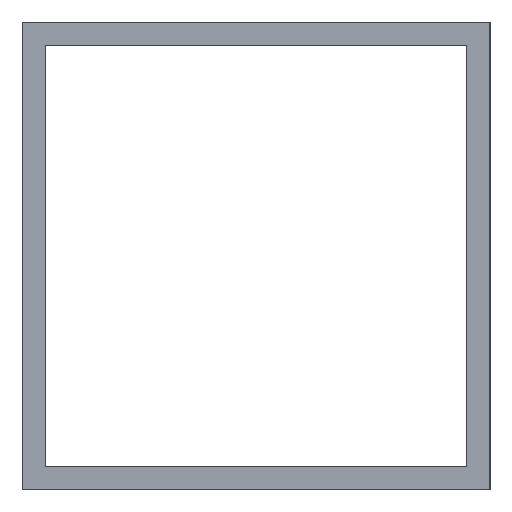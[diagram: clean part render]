
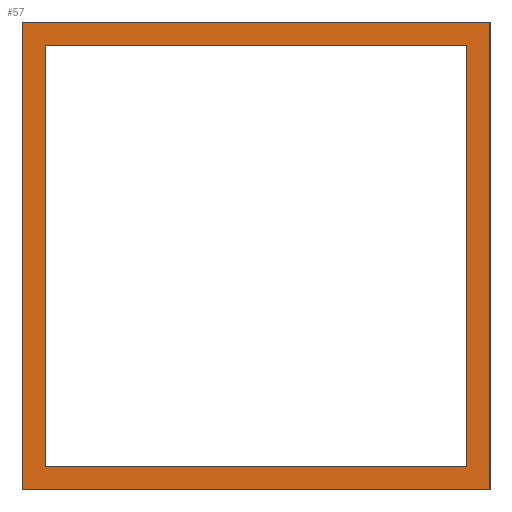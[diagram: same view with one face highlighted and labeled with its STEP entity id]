
A CAD part, left-side view. The second image highlights one B-rep face of the part: STEP entity #57.
In plain terms, the highlighted planar face has unit normal (-1, 0, 0).
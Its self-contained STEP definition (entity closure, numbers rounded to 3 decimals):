
#57=ADVANCED_FACE('',(#93,#94),#83,.T.);
#83=PLANE('',#570);
#93=FACE_BOUND('',#169,.T.);
#94=FACE_BOUND('',#170,.T.);
#169=EDGE_LOOP('',(#245,#246,#247,#248));
#170=EDGE_LOOP('',(#249,#250,#251,#252));
#245=ORIENTED_EDGE('',*,*,#405,.F.);
#246=ORIENTED_EDGE('',*,*,#406,.F.);
#247=ORIENTED_EDGE('',*,*,#407,.T.);
#248=ORIENTED_EDGE('',*,*,#408,.T.);
#249=ORIENTED_EDGE('',*,*,#409,.T.);
#250=ORIENTED_EDGE('',*,*,#410,.T.);
#251=ORIENTED_EDGE('',*,*,#411,.F.);
#252=ORIENTED_EDGE('',*,*,#412,.F.);
#357=VERTEX_POINT('',#784);
#358=VERTEX_POINT('',#785);
#359=VERTEX_POINT('',#787);
#360=VERTEX_POINT('',#789);
#361=VERTEX_POINT('',#792);
#362=VERTEX_POINT('',#793);
#363=VERTEX_POINT('',#795);
#364=VERTEX_POINT('',#797);
#405=EDGE_CURVE('',#357,#358,#461,.T.);
#406=EDGE_CURVE('',#359,#357,#462,.T.);
#407=EDGE_CURVE('',#359,#360,#463,.T.);
#408=EDGE_CURVE('',#360,#358,#464,.T.);
#409=EDGE_CURVE('',#361,#362,#465,.T.);
#410=EDGE_CURVE('',#362,#363,#466,.T.);
#411=EDGE_CURVE('',#364,#363,#467,.T.);
#412=EDGE_CURVE('',#361,#364,#468,.T.);
#461=LINE('',#783,#485);
#462=LINE('',#786,#486);
#463=LINE('',#788,#487);
#464=LINE('',#790,#488);
#465=LINE('',#791,#489);
#466=LINE('',#794,#490);
#467=LINE('',#796,#491);
#468=LINE('',#798,#492);
#485=VECTOR('',#638,1.);
#486=VECTOR('',#639,1.);
#487=VECTOR('',#640,1.);
#488=VECTOR('',#641,1.);
#489=VECTOR('',#642,1.);
#490=VECTOR('',#643,1.);
#491=VECTOR('',#644,1.);
#492=VECTOR('',#645,1.);
#570=AXIS2_PLACEMENT_3D('',#799,#646,#647);
#638=DIRECTION('',(0.,-1.,0.));
#639=DIRECTION('',(0.,0.,1.));
#640=DIRECTION('',(0.,-1.,0.));
#641=DIRECTION('',(0.,0.,1.));
#642=DIRECTION('',(0.,0.,1.));
#643=DIRECTION('',(0.,-1.,0.));
#644=DIRECTION('',(0.,0.,1.));
#645=DIRECTION('',(0.,-1.,0.));
#646=DIRECTION('',(-1.,0.,0.));
#647=DIRECTION('',(0.,0.,1.));
#783=CARTESIAN_POINT('',(-1615.,15.,0.));
#784=CARTESIAN_POINT('',(-1615.,15.,0.));
#785=CARTESIAN_POINT('',(-1615.,-15.,0.));
#786=CARTESIAN_POINT('',(-1615.,15.,-30.));
#787=CARTESIAN_POINT('',(-1615.,15.,-30.));
#788=CARTESIAN_POINT('',(-1615.,15.,-30.));
#789=CARTESIAN_POINT('',(-1615.,-15.,-30.));
#790=CARTESIAN_POINT('',(-1615.,-15.,-30.));
#791=CARTESIAN_POINT('',(-1615.,13.5,-30.));
#792=CARTESIAN_POINT('',(-1615.,13.5,-28.5));
#793=CARTESIAN_POINT('',(-1615.,13.5,-1.5));
#794=CARTESIAN_POINT('',(-1615.,0.,-1.5));
#795=CARTESIAN_POINT('',(-1615.,-13.5,-1.5));
#796=CARTESIAN_POINT('',(-1615.,-13.5,-30.));
#797=CARTESIAN_POINT('',(-1615.,-13.5,-28.5));
#798=CARTESIAN_POINT('',(-1615.,0.,-28.5));
#799=CARTESIAN_POINT('',(-1615.,15.,-30.));
